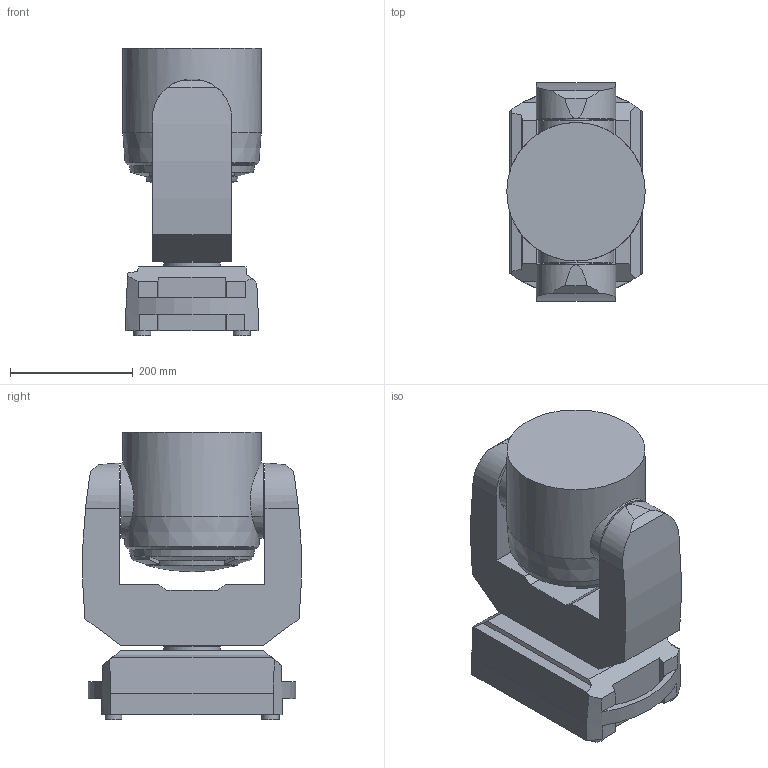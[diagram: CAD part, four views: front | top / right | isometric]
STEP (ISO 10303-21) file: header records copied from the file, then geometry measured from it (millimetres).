
FILE_DESCRIPTION(/* description */ (''),/* implementation_level */ '2;1');
FILE_NAME(/* name */ 'K:\ROBE-LED\2051 iBeam 250\08 2D_3D\Reduced\3D-Robin iBeam250.stp',/* time_stamp */ '2022-02-15T11:10:05+01:00',/* author */ ('Rosta'),/* organization */ (''),/* preprocessor_version */ 'ST-DEVELOPER v18.1',/* originating_system */ 'Autodesk Inventor 2022',/* authorisation */ '');
FILE_SCHEMA (('AUTOMOTIVE_DESIGN { 1 0 10303 214 3 1 1 }'));
Length unit declared in the file: metre
Products named in the file (4): 3D-Robin iBeam250; iBeam250_base; iBeam250_arm; iBeam250_head
Assembly tree (3 placements, depth 2):
  3D-Robin iBeam250
    iBeam250_base
    iBeam250_arm
    iBeam250_head
Bounding box: 225.83 x 356.68 x 469.54 mm (x, y, z)
Volume: 21068898.8 mm3; surface area: 801816.6 mm2
Topology: 3 solids, 3 shells, 95 faces, 254 edges, 168 vertices
Faces by surface type: plane 58, cylinder 26, cone 9, bspline 2
Full cylindrical faces by diameter (mm): 27.261 x3, 28 x1, 44 x2, 84.7 x1, 92.646 x1, 225.832 x1
Entity records: 3583 total; most frequent: CARTESIAN_POINT 976, DIRECTION 531, ORIENTED_EDGE 506, EDGE_CURVE 253, AXIS2_PLACEMENT_3D 192, VERTEX_POINT 168, LINE 147, VECTOR 147
